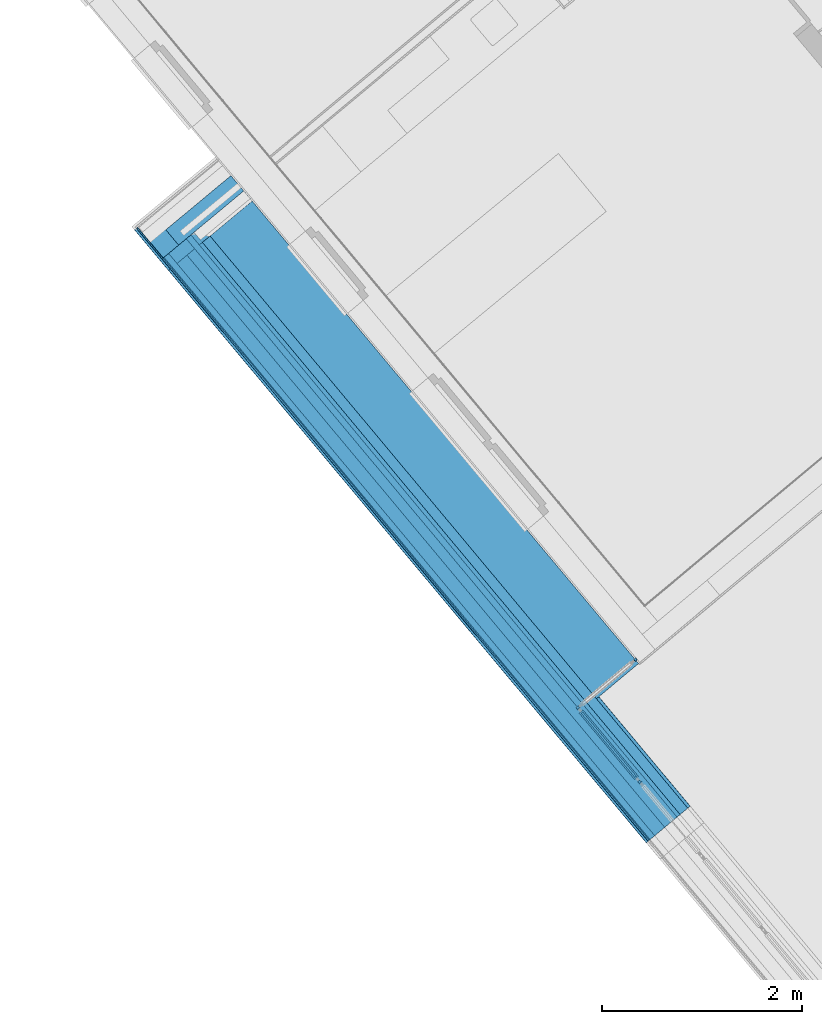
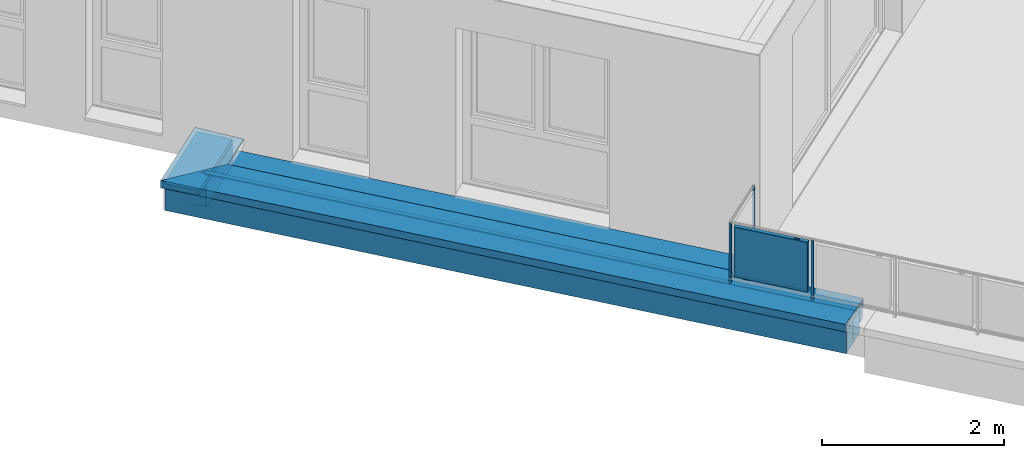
# One storey, part 15 of 61: 18 building element parts, 4 elements without a shape of their own.
"""IFC4 building model written with IfcOpenShell, lengths in metres."""

from ifc_helpers import new_model, entity, si_unit, converted_unit, derived_unit, direction, frame, origin_with_axes, place, context, subcontext, project, spatial, polygons, material, type_object, element, aggregate, save


model = new_model("IFC4")

# Units and contexts
model_context = context("Model", 3, precision=1e-05, world=origin_with_axes(), true_north=direction((0.0, 1.0)))
body_context = subcontext(model_context, "Body", "Model", "MODEL_VIEW")
ifc_project = project(units=[si_unit("LENGTHUNIT", "METRE"), si_unit("AREAUNIT", "SQUARE_METRE"), si_unit("VOLUMEUNIT", "CUBIC_METRE"), converted_unit("PLANEANGLEUNIT", "DEGREE", entity("IfcPlaneAngleMeasure", 0.0174532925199), si_unit("PLANEANGLEUNIT", "RADIAN"), dimensions=[0, 0, 0, 0, 0, 0, 0]), converted_unit("TIMEUNIT", "Year", entity("IfcTimeMeasure", 31556926.0), si_unit("TIMEUNIT", "SECOND"), dimensions=[0, 0, 1, 0, 0, 0, 0]), si_unit("MASSUNIT", "GRAM", prefix="KILO"), si_unit("THERMODYNAMICTEMPERATUREUNIT", "DEGREE_CELSIUS"), si_unit("LUMINOUSINTENSITYUNIT", "LUMEN"), si_unit("ENERGYUNIT", "JOULE", prefix="MEGA"), derived_unit("THERMALCONDUCTANCEUNIT", [(si_unit("POWERUNIT", "WATT"), 1), (si_unit("LENGTHUNIT", "METRE"), -1), (si_unit("THERMODYNAMICTEMPERATUREUNIT", "KELVIN"), -1)]), derived_unit("SPECIFICHEATCAPACITYUNIT", [(si_unit("ENERGYUNIT", "JOULE"), 1), (si_unit("MASSUNIT", "GRAM", prefix="KILO"), -1), (si_unit("THERMODYNAMICTEMPERATUREUNIT", "KELVIN"), -1)]), derived_unit("MASSDENSITYUNIT", [(si_unit("MASSUNIT", "GRAM", prefix="KILO"), 1), (si_unit("VOLUMEUNIT", "CUBIC_METRE"), -1)])], contexts=[model_context])

# Site, building, storey
site_placement = place(None, frame((-0.00153261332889, -0.00661245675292, 0.0), z_axis=(0.0, 0.0, 1.0), x_axis=(1.0, 0.0, 0.0)))
site = spatial("IfcSite", under=ifc_project, at=site_placement, Name="Gelände", CompositionType="ELEMENT")
building_placement = place(site_placement, origin_with_axes())
building = spatial("IfcBuilding", under=site, at=building_placement, Name="Gebäude", CompositionType="ELEMENT")
storey_placement = place(building_placement, frame((0.0, 0.0, 5.7), z_axis=(0.0, 0.0, 1.0), x_axis=(1.0, 0.0, 0.0)))
storey = spatial("IfcBuildingStorey", under=building, at=storey_placement, Name="DG1", CompositionType="ELEMENT", Elevation=5.7)

# Wall, building element parts
wall_type = type_object("IfcWallType", Name="Bauteil - Attika Terrasse 1.DG 574 x 410", PredefinedType="NOTDEFINED")
wall_1_placement = place(storey_placement, frame((-5.34189117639, 15.0197766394, -0.2), z_axis=(0.0, 0.0, 1.0), x_axis=(-0.768971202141, -0.639283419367, 0.0)))
wall_1 = element("IfcWall", 1, at=wall_1_placement, inside=storey, type_object=wall_type, Name="Wand-003", PredefinedType="NOTDEFINED")
ifc_material_1 = material(Name="Holzwerkstoff")
building_element_part_1_placement = place(wall_1_placement, origin_with_axes())
building_element_part_1 = element("IfcBuildingElementPart", 2, at=building_element_part_1_placement, material=ifc_material_1, Name="Holzwerkstoff", PredefinedType="NOTDEFINED", context=body_context, shape_type="Tessellation", body=[
    polygons([(1.08651749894, -0.239276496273, 0.608570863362), (1.08603229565, 0.330698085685, 0.587938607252), (0.0, 0.330698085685, 0.587938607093), (0.0, -0.239276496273, 0.608570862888), (1.08723952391, -0.239996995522, 0.587938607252), (0.0, 0.329999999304, 0.567947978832), (1.08603529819, 0.33069508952, 0.587852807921), (1.03602023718, 0.330634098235, 0.586106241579), (0.976160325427, 0.330561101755, 0.584015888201), (0.74603542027, 0.330280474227, 0.575979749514), (0.685925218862, 0.330207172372, 0.573880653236), (0.516035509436, 0.329999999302, 0.567947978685), (0.0, 0.160110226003, 0.573880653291), (0.0, 0.100000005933, 0.575979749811), (0.0, -0.130124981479, 0.584015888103), (0.0, -0.189984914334, 0.586106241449), (0.0, -0.239999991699, 0.587852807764), (1.08724252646, -0.239999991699, 0.587852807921), (1.03712153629, -0.189984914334, 0.586106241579), (0.977134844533, -0.130124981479, 0.584015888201), (0.746522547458, 0.100000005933, 0.575979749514), (0.686285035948, 0.160110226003, 0.573880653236)], [[[1, 2, 3, 4]], [[5, 2, 1]], [[6, 3, 2, 7, 8, 9, 10, 11, 12]], [[4, 3, 6, 13, 14, 15, 16, 17]], [[5, 1, 4, 17, 18]], [[2, 5, 18, 7]], [[7, 18, 19, 8]], [[20, 9, 8, 19]], [[9, 20, 21, 10]], [[21, 22, 11, 10]], [[22, 12, 11]], [[12, 22, 13, 6]], [[21, 14, 13, 22]], [[20, 15, 14, 21]], [[20, 19, 16, 15]], [[17, 16, 19, 18]]], closed=True),
])
ifc_material_2 = material(Name="Stahlbeton")
building_element_part_2_placement = place(wall_1_placement, origin_with_axes())
building_element_part_2 = element("IfcBuildingElementPart", 3, at=building_element_part_2_placement, material=ifc_material_2, Name="Stahlbeton", PredefinedType="NOTDEFINED", context=body_context, shape_type="Tessellation", body=[
    polygons([(0.846734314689, 1.82835613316e-09, 0.499999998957), (0.846311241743, 0.199999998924, 0.499999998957), (0.0, 0.199999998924, 0.500000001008), (0.0, 1.82835613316e-09, 0.500000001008), (0.846311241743, 0.199999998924, 0.498822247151), (0.846734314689, 1.82835613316e-09, 0.498822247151), (0.846311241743, 0.199999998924, 0.49100648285), (0.846311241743, 0.199999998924, 0.488695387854), (0.846311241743, 0.199999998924, 0.335), (0.0, 0.199999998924, 0.335000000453), (0.0, 1.82835613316e-09, 0.2), (0.0, 0.199999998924, 0.2), (0.846734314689, 1.82835613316e-09, 0.2), (0.846734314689, 1.82835613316e-09, 0.335), (0.846734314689, 1.82835613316e-09, 0.488695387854), (0.846734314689, 1.82835613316e-09, 0.49100648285), (0.846311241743, 0.199999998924, 0.2)], [[[1, 2, 3, 4]], [[5, 2, 1, 6]], [[2, 5, 7, 8, 9, 10, 3]], [[11, 4, 3, 10, 12]], [[6, 1, 4, 11, 13, 14, 15, 16]], [[5, 6, 16, 7]], [[7, 16, 15, 8]], [[8, 15, 14, 9]], [[9, 17, 12, 10]], [[17, 13, 11, 12]], [[9, 14, 13, 17]]], closed=True),
])
ifc_material_3 = material(Name="Brettschichtholz")
building_element_part_3_placement = place(wall_1_placement, origin_with_axes())
building_element_part_3 = element("IfcBuildingElementPart", 4, at=building_element_part_3_placement, material=ifc_material_3, Name="Brettschichtholz", PredefinedType="NOTDEFINED", context=body_context, shape_type="Tessellation", body=[
    polygons([(1.06139631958, 0.159999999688, 0.559999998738), (1.06131170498, 0.200000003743, 0.559999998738), (0.0, 0.200000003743, 0.559999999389), (0.0, 0.159999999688, 0.559999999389), (1.06131169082, 0.200000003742, 0.519224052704), (1.06152324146, 0.100000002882, 0.559999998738), (1.06201003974, -0.130124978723, 0.559999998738), (1.06213696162, -0.190124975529, 0.559999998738), (1.06218958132, -0.214999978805, 0.559999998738), (1.06218956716, -0.214999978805, 0.519224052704), (1.06131168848, 0.200000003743, 0.511361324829), (1.06131168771, 0.200000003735, 0.50905023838), (1.06131169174, 0.200000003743, 0.499999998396), (0.0, 0.200000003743, 0.500000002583), (0.0, -0.214999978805, 0.499999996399), (0.0, -0.214999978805, 0.559999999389), (0.0, -0.190124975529, 0.559999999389), (0.0, -0.130124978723, 0.559999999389), (0.0, 0.100000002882, 0.559999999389), (1.06218956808, -0.214999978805, 0.499999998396), (1.06218956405, -0.214999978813, 0.50905023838), (1.06218956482, -0.214999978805, 0.511361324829)], [[[1, 2, 3, 4]], [[5, 2, 1, 6, 7, 8, 9, 10]], [[2, 5, 11, 12, 13, 14, 3]], [[15, 16, 17, 18, 19, 4, 3, 14]], [[6, 1, 4, 19]], [[7, 6, 19, 18]], [[8, 7, 18, 17]], [[9, 8, 17, 16]], [[10, 9, 16, 15, 20, 21, 22]], [[5, 10, 22, 11]], [[11, 22, 21, 12]], [[12, 21, 20, 13]], [[14, 13, 20, 15]]], closed=True),
])
aggregate(wall_1, [building_element_part_1, building_element_part_2, building_element_part_3])

wall_2_placement = place(storey_placement, frame((-5.99300548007, 14.4784734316, -0.2), z_axis=(0.0, 0.0, 1.0), x_axis=(0.640908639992, -0.767617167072, 0.0)))
wall_2 = element("IfcWall", 5, at=wall_2_placement, inside=storey, type_object=wall_type, Name="Wand-004", PredefinedType="NOTDEFINED")
ifc_material_4 = material(Name="Stahl")
building_element_part_4_placement = place(wall_2_placement, origin_with_axes())
building_element_part_4 = element("IfcBuildingElementPart", 6, at=building_element_part_4_placement, material=ifc_material_4, Name="Stahl", PredefinedType="NOTDEFINED", context=body_context, shape_type="Tessellation", body=[
    polygons([(-0.240659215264, -0.240150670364, 0.575979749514), (-0.240662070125, -0.241500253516, 0.575979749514), (-0.240662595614, -0.241500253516, 0.584015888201), (-0.240659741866, -0.240151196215, 0.584015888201), (-0.240661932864, -0.241500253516, 0.573880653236), (-0.240659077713, -0.240150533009, 0.573880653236), (-0.238743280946, -0.241500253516, 0.511361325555), (-0.240097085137, -0.241500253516, 0.510007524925), (7.77960617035, -0.241500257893, 0.510007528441), (7.77960617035, -0.241500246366, 0.610006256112), (-0.24201164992, -0.241500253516, 0.610006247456), (-0.203241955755, -0.241500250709, 0.608602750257), (-0.240664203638, -0.241500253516, 0.608602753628), (-0.240664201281, -0.241500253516, 0.608570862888), (-0.240662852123, -0.241500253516, 0.587938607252), (-0.240662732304, -0.241500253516, 0.586106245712), (-0.240661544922, -0.241500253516, 0.567947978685), (-0.240661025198, -0.241500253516, 0.560000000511), (-0.240658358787, -0.241500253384, 0.519224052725), (-0.240657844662, -0.241500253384, 0.511361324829), (-0.240659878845, -0.240151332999, 0.586106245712), (-0.238740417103, -0.24014644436, 0.511361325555), (-0.240654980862, -0.24014644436, 0.511361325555), (-0.240655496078, -0.240146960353, 0.519224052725), (-0.240658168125, -0.240149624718, 0.560000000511), (-0.24065868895, -0.240150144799, 0.567947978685), (-0.240659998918, -0.240151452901, 0.587938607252), (-0.240661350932, -0.240152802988, 0.608570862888), (-0.240661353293, -0.240152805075, 0.608602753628), (-0.203239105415, -0.240152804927, 0.608602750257), (7.7796065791, -0.240152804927, 0.608602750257), (7.77960658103, -0.240146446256, 0.51136132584), (-0.238736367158, -0.238231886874, 0.511361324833), (-0.241051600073, -0.240542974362, 0.509050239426), (7.77960646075, -0.240542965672, 0.50905023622), (7.77960924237, -0.231373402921, 0.518219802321), (7.77960896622, -0.232283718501, 0.519224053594), (7.77960684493, -0.239276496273, 0.608570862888), (7.77978015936, 0.330698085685, 0.587937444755), (7.77978015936, 0.330698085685, 0.491006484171), (7.77978015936, 0.32288233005, 0.498822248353), (7.77978015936, 0.321878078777, 0.497911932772), (7.77978015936, 0.331094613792, 0.488695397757), (7.77978015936, 0.332051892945, 0.489652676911), (7.77978015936, 0.332051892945, 0.589243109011), (0.332755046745, 0.332051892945, 0.589243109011), (-0.202277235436, -0.201849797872, 0.608570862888), (-0.203159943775, -0.202730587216, 0.608602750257), (-0.202356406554, -0.239276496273, 0.608570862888), (-0.232775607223, -0.23228372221, 0.519224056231), (-0.231867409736, -0.233287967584, 0.518219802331), (-0.231863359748, -0.23137340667, 0.518219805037), (0.332675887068, 0.294630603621, 0.589243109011), (0.332752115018, 0.330665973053, 0.587938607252), (0.332752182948, 0.330698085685, 0.587937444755), (0.332752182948, 0.330698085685, 0.498822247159), (0.332752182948, 0.330698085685, 0.491006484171), (0.332752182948, 0.330698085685, 0.586106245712), (0.332752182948, 0.330698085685, 0.584015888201), (0.332752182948, 0.330698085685, 0.575979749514), (0.332752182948, 0.330698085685, 0.573880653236), (0.332752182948, 0.330698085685, 0.567947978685), (0.332752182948, 0.330698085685, 0.559999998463), (0.332752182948, 0.330698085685, 0.519224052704), (0.332752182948, 0.330698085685, 0.511361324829), (0.332752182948, 0.330698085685, 0.50905023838), (0.332752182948, 0.330698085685, 0.499999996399), (0.331398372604, 0.33069808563, 0.49100648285), (0.323566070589, 0.322882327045, 0.498822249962), (0.324474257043, 0.32187807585, 0.497911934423), (0.331394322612, 0.328783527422, 0.49100648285), (0.332748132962, 0.328783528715, 0.491006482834), (0.332750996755, 0.330137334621, 0.489652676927), (0.331795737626, 0.331094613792, 0.488695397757), (0.332755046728, 0.332051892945, 0.489652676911), (0.332755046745, 0.332051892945, 0.49100648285), (0.332755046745, 0.332051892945, 0.498822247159), (0.332755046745, 0.332051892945, 0.499999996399), (0.332755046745, 0.332051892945, 0.50905023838), (0.332755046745, 0.332051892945, 0.511361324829), (0.332755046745, 0.332051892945, 0.519224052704), (0.332755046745, 0.332051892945, 0.559999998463), (0.332755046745, 0.332051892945, 0.567947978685), (0.332755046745, 0.332051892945, 0.573880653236), (0.332755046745, 0.332051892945, 0.575979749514), (0.332755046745, 0.332051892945, 0.584015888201), (0.332755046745, 0.332051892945, 0.586106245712), (0.332755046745, 0.332051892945, 0.587938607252)], [[[1, 2, 3, 4]], [[5, 2, 1, 6]], [[7, 8, 9, 10, 11, 12, 13, 14, 15, 16, 3, 2, 5, 17, 18, 19, 20]], [[3, 16, 21, 4]], [[22, 23, 24, 25, 26, 6, 1, 4, 21, 27, 28, 29, 30, 31, 32]], [[17, 5, 6, 26]], [[8, 7, 22, 33, 34]], [[8, 34, 35, 9]], [[9, 35, 36, 37, 32, 31, 38, 39, 40, 41, 42, 43, 44, 45, 10]], [[46, 47, 48, 11, 10, 45]], [[30, 12, 11, 48]], [[29, 13, 12, 30]], [[14, 13, 29, 28]], [[15, 14, 28, 27]], [[16, 15, 27, 21]], [[18, 17, 26, 25]], [[19, 18, 25, 24]], [[20, 19, 24, 23]], [[7, 20, 23, 22]], [[49, 38, 31, 30]], [[22, 32, 37, 50, 51]], [[33, 22, 51, 52]], [[34, 33, 52, 36, 35]], [[50, 37, 36, 52]], [[53, 54, 55, 39, 38, 49]], [[56, 57, 40, 39, 55, 58, 59, 60, 61, 62, 63, 64, 65, 66, 67]], [[57, 68, 69, 41, 40]], [[69, 70, 42, 41]], [[70, 71, 72, 73, 74, 43, 42]], [[74, 75, 44, 43]], [[76, 77, 78, 79, 80, 81, 82, 83, 84, 85, 86, 87, 88, 46, 45, 44, 75]], [[53, 49, 47, 46]], [[49, 30, 48, 47]], [[51, 50, 52]], [[54, 53, 46, 88, 55]], [[76, 57, 56, 77]], [[58, 55, 88, 87]], [[86, 59, 58, 87]], [[60, 59, 86, 85]], [[61, 60, 85, 84]], [[62, 61, 84, 83]], [[63, 62, 83, 82]], [[64, 63, 82, 81]], [[65, 64, 81, 80]], [[66, 65, 80, 79]], [[67, 66, 79, 78]], [[56, 67, 78, 77]], [[72, 71, 68, 57]], [[70, 69, 68, 71]], [[73, 72, 57, 76, 75]], [[74, 73, 75]]], closed=True),
])
building_element_part_5_placement = place(wall_2_placement, origin_with_axes())
building_element_part_5 = element("IfcBuildingElementPart", 7, at=building_element_part_5_placement, material=ifc_material_1, Name="Holzwerkstoff", PredefinedType="NOTDEFINED", context=body_context, shape_type="Tessellation", body=[
    polygons([(0.33023295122, -0.189984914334, 0.586106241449), (0.33028658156, -0.130124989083, 0.584015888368), (7.77963995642, -0.130124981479, 0.584015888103), (7.77962179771, -0.189984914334, 0.586106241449), (0.331334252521, 0.330634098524, 0.586106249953), (0.331261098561, 0.330561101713, 0.584015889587), (0.330492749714, 0.100000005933, 0.575979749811), (7.77970976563, 0.100000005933, 0.575979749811), (7.77960662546, -0.239999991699, 0.587852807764), (7.77972800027, 0.160110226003, 0.573880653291), (7.77978015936, 0.329999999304, 0.567947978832), (7.77978015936, 0.330698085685, 0.587938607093), (7.77960684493, -0.239276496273, 0.608570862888), (0.33018813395, -0.239999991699, 0.587852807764), (0.330191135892, -0.23999699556, 0.587938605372), (0.331398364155, 0.330698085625, 0.587938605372), (0.330698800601, 0.329999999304, 0.567947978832), (0.330906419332, 0.330207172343, 0.573880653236), (0.330979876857, 0.330280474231, 0.57597974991), (0.330546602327, 0.160110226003, 0.573880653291), (-0.239783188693, -0.239276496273, 0.608570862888)], [[[1, 2, 3, 4]], [[2, 1, 5, 6]], [[2, 7, 8, 3]], [[9, 4, 3, 8, 10, 11, 12, 13]], [[14, 1, 4, 9]], [[1, 14, 15, 16, 5]], [[6, 5, 16, 12, 11, 17, 18, 19]], [[7, 2, 6, 19]], [[7, 20, 10, 8]], [[20, 17, 11, 10]], [[21, 13, 12, 16]], [[15, 14, 9, 13, 21]], [[15, 21, 16]], [[17, 20, 18]], [[20, 7, 19, 18]]], closed=True),
])
ifc_material_5 = material(Name="EPS 1")
building_element_part_6_placement = place(wall_2_placement, origin_with_axes())
building_element_part_6 = element("IfcBuildingElementPart", 8, at=building_element_part_6_placement, material=ifc_material_5, Name="EPS 1", PredefinedType="NOTDEFINED", context=body_context, shape_type="Tessellation", body=[
    polygons([(0.300423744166, 0.200000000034, 0.335000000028), (0.300423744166, 0.200000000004, 0.488695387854), (0.300635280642, 0.300000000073, 0.488695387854), (0.300635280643, 0.300000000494, 0.335000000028), (7.77974010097, 0.200000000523, 0.335000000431), (7.77974010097, 0.2, 0.560000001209), (0.300423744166, 0.199999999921, 0.560000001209), (0.300423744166, 0.199999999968, 0.519224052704), (0.300423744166, 0.199999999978, 0.511361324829), (0.300423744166, 0.19999999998, 0.50905023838), (0.300423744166, 0.199999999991, 0.499999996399), (0.300423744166, 0.199999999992, 0.498822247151), (0.300423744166, 0.200000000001, 0.49100648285), (0.300635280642, 0.300000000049, 0.49100648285), (0.300635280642, 0.299999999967, 0.498822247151), (0.300635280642, 0.299999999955, 0.499999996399), (0.300635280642, 0.29999999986, 0.50905023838), (0.300635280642, 0.299999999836, 0.511361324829), (0.300635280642, 0.299999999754, 0.519224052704), (0.300635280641, 0.299999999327, 0.560000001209), (7.77977043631, 0.30000000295, 0.560000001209), (7.77977043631, 0.300000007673, 0.48869539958), (7.77977043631, 0.300000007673, 0.335000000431)], [[[1, 2, 3, 4]], [[2, 1, 5, 6, 7, 8, 9, 10, 11, 12, 13]], [[2, 13, 14, 3]], [[3, 14, 15, 16, 17, 18, 19, 20, 21, 22, 23, 4]], [[1, 4, 23, 5]], [[6, 5, 23, 22, 21]], [[20, 7, 6, 21]], [[8, 7, 20, 19]], [[9, 8, 19, 18]], [[10, 9, 18, 17]], [[11, 10, 17, 16]], [[12, 11, 16, 15]], [[13, 12, 15, 14]]], closed=True),
])
ifc_material_6 = material(Name="Vollholz")
building_element_part_7_placement = place(wall_2_placement, origin_with_axes())
building_element_part_7 = element("IfcBuildingElementPart", 9, at=building_element_part_7_placement, material=ifc_material_6, Name="Vollholz", PredefinedType="NOTDEFINED", context=body_context, shape_type="Tessellation", body=[
    polygons([(0.160322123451, 0.1, 0.573880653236), (0.160449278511, 0.160110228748, 0.573880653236), (0.160402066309, 0.160063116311, 0.567947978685), (0.160275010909, 0.1, 0.567947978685), (0.100211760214, 0.100000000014, 0.575979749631), (7.77972800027, 0.160110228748, 0.573880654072), (7.77972796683, 0.16, 0.560000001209), (0.160338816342, 0.16, 0.560000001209), (0.160211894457, 0.1, 0.560000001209), (7.77970976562, 0.1, 0.560000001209), (7.77970976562, 0.1, 0.575979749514)], [[[1, 2, 3, 4]], [[5, 2, 1]], [[3, 2, 6, 7, 8]], [[4, 3, 8, 9]], [[5, 1, 4, 9, 10, 11]], [[2, 5, 11, 6]], [[10, 7, 6, 11]], [[9, 8, 7, 10]]], closed=True),
])
building_element_part_8_placement = place(wall_2_placement, origin_with_axes())
building_element_part_8 = element("IfcBuildingElementPart", 10, at=building_element_part_8_placement, material=ifc_material_2, Name="Stahlbeton", PredefinedType="NOTDEFINED", context=body_context, shape_type="Tessellation", body=[
    polygons([(0.20042351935, 0.199999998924, 0.498822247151), (0.20042351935, 0.199999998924, 0.500000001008), (7.77974010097, 0.199999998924, 0.500000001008), (7.77974010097, 0.200000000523, 0.335000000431), (0.20042351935, 0.199999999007, 0.335), (0.20042351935, 0.199999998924, 0.488695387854), (0.20042351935, 0.199999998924, 0.49100648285), (0.200000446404, 1.82835613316e-09, 0.500000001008), (0.200000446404, 1.82835613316e-09, 0.498822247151), (7.77967943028, 1.82835080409e-09, 0.500000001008), (7.77974010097, 0.200000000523, 0.2), (7.77967943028, 1.82835258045e-09, 0.2), (0.20042351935, 0.199999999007, 0.2), (0.200000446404, 1.82835613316e-09, 0.488695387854), (0.200000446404, 1.82835613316e-09, 0.335), (0.200000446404, 1.82835613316e-09, 0.49100648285), (0.200000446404, 1.82835613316e-09, 0.2)], [[[1, 2, 3, 4, 5, 6, 7]], [[8, 2, 1, 9]], [[2, 8, 10, 3]], [[11, 4, 3, 10, 12]], [[13, 5, 4, 11]], [[14, 6, 5, 15]], [[16, 7, 6, 14]], [[9, 1, 7, 16]], [[8, 9, 16, 14, 15, 17, 12, 10]], [[17, 13, 11, 12]], [[15, 5, 13, 17]]], closed=True),
])
building_element_part_9_placement = place(wall_2_placement, origin_with_axes())
building_element_part_9 = element("IfcBuildingElementPart", 11, at=building_element_part_9_placement, material=ifc_material_5, Name="EPS 1", PredefinedType="NOTDEFINED", context=body_context, shape_type="Tessellation", body=[
    polygons([(-2.40415687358e-10, -2.39910313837e-10, 0.498822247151), (-2.40415687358e-10, -2.39910313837e-10, 0.499999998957), (7.77967943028, -2.39913866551e-10, 0.499999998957), (7.77967943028, -2.39912978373e-10, 0.2), (-2.40417463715e-10, -2.39910313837e-10, 0.2), (-2.40415687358e-10, -2.39910313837e-10, 0.335), (-2.40415687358e-10, -2.39910313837e-10, 0.488695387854), (-2.40415687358e-10, -2.39910313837e-10, 0.49100648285), (-0.000423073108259, -0.19999996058, 0.499999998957), (-0.000423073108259, -0.19999996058, 0.498822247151), (7.77961875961, -0.19999996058, 0.499999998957), (7.77961875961, -0.19999996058, 0.2), (-0.000423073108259, -0.19999996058, 0.2), (-0.000423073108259, -0.19999996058, 0.335), (-0.000423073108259, -0.19999996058, 0.488695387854), (-0.000423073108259, -0.19999996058, 0.49100648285)], [[[1, 2, 3, 4, 5, 6, 7, 8]], [[9, 2, 1, 10]], [[2, 9, 11, 3]], [[12, 4, 3, 11]], [[13, 5, 4, 12]], [[14, 6, 5, 13]], [[15, 7, 6, 14]], [[16, 8, 7, 15]], [[10, 1, 8, 16]], [[9, 10, 16, 15, 14, 13, 12, 11]]], closed=True),
])
building_element_part_10_placement = place(wall_2_placement, origin_with_axes())
building_element_part_10 = element("IfcBuildingElementPart", 12, at=building_element_part_10_placement, material=ifc_material_6, Name="Vollholz", PredefinedType="NOTDEFINED", context=body_context, shape_type="Tessellation", body=[
    polygons([(-0.130527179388, -0.189996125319, 0.584015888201), (-0.130400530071, -0.130124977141, 0.584015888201), (-0.130400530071, -0.130124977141, 0.575979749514), (-0.130527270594, -0.190039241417, 0.575979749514), (-0.190387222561, -0.189984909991, 0.586106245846), (7.77963995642, -0.130124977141, 0.584015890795), (7.77963995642, -0.130124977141, 0.560000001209), (-0.130400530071, -0.130124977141, 0.560000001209), (-0.130400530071, -0.130124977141, 0.567947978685), (-0.130400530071, -0.130124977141, 0.573880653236), (-0.130527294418, -0.190050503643, 0.573880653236), (-0.130527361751, -0.190082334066, 0.567947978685), (-0.130527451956, -0.190124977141, 0.560000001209), (7.77962175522, -0.190124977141, 0.560000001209), (7.77962179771, -0.189984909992, 0.586106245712)], [[[1, 2, 3, 4]], [[5, 2, 1]], [[3, 2, 6, 7, 8, 9, 10]], [[4, 3, 10, 11]], [[5, 1, 4, 11, 12, 13, 14, 15]], [[2, 5, 15, 6]], [[14, 7, 6, 15]], [[13, 8, 7, 14]], [[12, 9, 8, 13]], [[11, 10, 9, 12]]], closed=True),
])
ifc_material_7 = material(Name="Zementputz")
building_element_part_11_placement = place(wall_2_placement, origin_with_axes())
building_element_part_11 = element("IfcBuildingElementPart", 13, at=building_element_part_11_placement, material=ifc_material_7, Name="Zementputz", PredefinedType="NOTDEFINED", context=body_context, shape_type="Tessellation", body=[
    polygons([(-0.20042348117, -0.199999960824, 0.498822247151), (-0.20042348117, -0.199999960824, 0.499999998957), (7.77961875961, -0.199999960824, 0.499999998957), (7.77961875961, -0.199999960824, 0.2), (-0.20042348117, -0.199999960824, 0.2), (-0.20042348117, -0.199999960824, 0.335), (-0.20042348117, -0.199999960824, 0.488695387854), (-0.20042348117, -0.199999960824, 0.49100648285), (-0.200455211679, -0.214999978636, 0.499999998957), (-0.200455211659, -0.21499996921, 0.498822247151), (7.7796142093, -0.21499996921, 0.499999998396), (7.7796142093, -0.21499996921, 0.2), (-0.200455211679, -0.214999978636, 0.2), (-0.200455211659, -0.21499996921, 0.335), (-0.200455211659, -0.21499996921, 0.488695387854), (-0.200455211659, -0.21499996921, 0.49100648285)], [[[1, 2, 3, 4, 5, 6, 7, 8]], [[9, 2, 1, 10]], [[2, 9, 11, 3]], [[12, 4, 3, 11]], [[13, 5, 4, 12]], [[14, 6, 5, 13]], [[15, 7, 6, 14]], [[16, 8, 7, 15]], [[10, 1, 8, 16]], [[9, 10, 16, 15, 14, 13, 12, 11]]], closed=True),
])
building_element_part_12_placement = place(wall_2_placement, origin_with_axes())
building_element_part_12 = element("IfcBuildingElementPart", 14, at=building_element_part_12_placement, material=ifc_material_3, Name="Brettschichtholz", PredefinedType="NOTDEFINED", context=body_context, shape_type="Tessellation", body=[
    polygons([(0.199598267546, -0.190124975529, 0.559999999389), (0.199545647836, -0.214999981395, 0.559999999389), (7.7796142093, -0.214999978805, 0.559999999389), (7.77962175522, -0.190124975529, 0.559999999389), (0.199545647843, -0.214999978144, 0.519224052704), (0.199725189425, -0.130124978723, 0.559999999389), (0.200211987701, 0.100000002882, 0.559999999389), (0.20033890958, 0.159999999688, 0.559999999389), (0.200423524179, 0.200000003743, 0.559999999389), (0.200423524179, 0.200000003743, 0.519224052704), (0.199545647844, -0.214999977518, 0.511361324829), (0.199545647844, -0.214999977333, 0.50905023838), (0.199545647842, -0.214999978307, 0.499999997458), (7.7796142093, -0.21499996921, 0.499999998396), (7.7796142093, -0.21499996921, 0.50905023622), (7.77974010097, 0.200000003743, 0.500000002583), (7.77974010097, 0.200000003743, 0.559999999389), (7.77972796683, 0.159999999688, 0.559999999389), (7.77970976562, 0.100000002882, 0.559999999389), (7.77963995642, -0.130124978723, 0.559999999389), (0.200423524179, 0.200000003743, 0.500000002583), (0.200423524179, 0.200000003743, 0.50905023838), (0.200423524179, 0.200000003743, 0.511361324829)], [[[1, 2, 3, 4]], [[5, 2, 1, 6, 7, 8, 9, 10]], [[11, 12, 13, 14, 15, 3, 2, 5]], [[15, 14, 16, 17, 18, 19, 20, 4, 3]], [[6, 1, 4, 20]], [[7, 6, 20, 19]], [[8, 7, 19, 18]], [[9, 8, 18, 17]], [[21, 22, 23, 10, 9, 17, 16]], [[11, 5, 10, 23]], [[12, 11, 23, 22]], [[21, 13, 12, 22]], [[13, 21, 16, 14]]], closed=True),
])
aggregate(wall_2, [building_element_part_4, building_element_part_5, building_element_part_6, building_element_part_7, building_element_part_8, building_element_part_9, building_element_part_10, building_element_part_11, building_element_part_12])

# Covering, building element part
covering_type = type_object("IfcCoveringType", Name="Balkon vor Terrasse Kies 220", PredefinedType="NOTDEFINED")
covering_placement = place(storey_placement, frame((-1.76593456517, 9.72776171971, 0.0), z_axis=(0.0, 0.0, 1.0), x_axis=(1.0, 0.0, 0.0)))
covering = element("IfcCovering", 15, at=covering_placement, inside=storey, type_object=covering_type, Name="Decke-005", PredefinedType="NOTDEFINED")
ifc_material_8 = material(Name="Kies")
building_element_part_13_placement = place(covering_placement, origin_with_axes())
building_element_part_13 = element("IfcBuildingElementPart", 16, at=building_element_part_13_placement, material=ifc_material_8, Name="Kies", PredefinedType="NOTDEFINED", context=body_context, shape_type="Tessellation", body=[
    polygons([(0.498355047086, 0.416092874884, 0.15), (0.498355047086, 0.416092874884, 0.22), (0.0, 0.0, 0.22), (0.0, 0.0, 0.15), (-0.617608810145, 1.75161976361, 0.22), (-0.617608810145, 1.75161976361, 0.15), (-0.606098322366, 1.76123790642, 0.22), (-1.7602754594, 3.14249643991, 0.22), (-1.77178594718, 3.1328782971, 0.22), (-2.41941680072, 3.90792886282, 0.22), (-2.40790631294, 3.91754700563, 0.22), (-2.98499488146, 4.60817627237, 0.22), (-2.99650536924, 4.59855812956, 0.22), (-3.44771470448, 5.13854174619, 0.22), (-3.94509461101, 4.72504524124, 0.22), (-3.94509461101, 4.72504524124, 0.15), (-3.44771470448, 5.13854174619, 0.15), (-2.99650536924, 4.59855812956, 0.15), (-2.98499488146, 4.60817627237, 0.15), (-2.40790631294, 3.91754700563, 0.15), (-2.41941680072, 3.90792886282, 0.15), (-1.77178594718, 3.1328782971, 0.15), (-1.7602754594, 3.14249643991, 0.15), (-0.606098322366, 1.76123790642, 0.15)], [[[1, 2, 3, 4]], [[5, 2, 1, 6]], [[5, 7, 8, 9, 10, 11, 12, 13, 14, 15, 3, 2]], [[16, 4, 3, 15]], [[6, 1, 4, 16, 17, 18, 19, 20, 21, 22, 23, 24]], [[24, 7, 5, 6]], [[7, 24, 23, 8]], [[9, 8, 23, 22]], [[10, 9, 22, 21]], [[20, 11, 10, 21]], [[11, 20, 19, 12]], [[13, 12, 19, 18]], [[14, 13, 18, 17]], [[14, 17, 16, 15]]], closed=True),
])
aggregate(covering, [building_element_part_13])

# Space
space_placement = place(storey_placement, frame((-1.65459986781, 9.80045444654, 0.22), z_axis=(0.0, 0.0, 1.0), x_axis=(0.640908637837, -0.767617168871, 0.0)))
space = spatial("IfcSpace", under=storey, at=space_placement, CompositionType="ELEMENT", PredefinedType="NOTDEFINED")

# Railing, building element parts
railing_type = type_object("IfcRailingType", Name="Geländerart", PredefinedType="NOTDEFINED")
railing_placement = place(space_placement, frame((-0.0155551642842, 0.517171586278, 0.16), z_axis=(0.0, 0.0, 1.0), x_axis=(0.640908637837, 0.767617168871, 0.0)))
railing = element("IfcRailing", 17, at=railing_placement, inside=space, type_object=railing_type, Name="Geländer - 001", PredefinedType="NOTDEFINED")
ifc_material_9 = material(Name="Aluminium")
building_element_part_14_placement = place(railing_placement, origin_with_axes())
building_element_part_14 = element("IfcBuildingElementPart", 18, at=building_element_part_14_placement, material=ifc_material_9, Name="Aluminium", PredefinedType="NOTDEFINED", context=body_context, shape_type="Tessellation", body=[
    polygons([(-0.049652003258, 0.0399647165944, -0.3), (-0.0336292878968, 0.0207742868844, -0.3), (-0.0336292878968, 0.0207742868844, 0.82), (-0.049652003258, 0.0399647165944, 0.82), (-0.030461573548, 0.0559874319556, -0.3), (-0.0144388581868, 0.0367970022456, -0.3), (-0.0144388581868, 0.0367970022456, 0.82), (-0.030461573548, 0.0559874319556, 0.82)], [[[1, 2, 3, 4]], [[1, 5, 6, 2]], [[2, 6, 7, 3]], [[4, 3, 7, 8]], [[5, 1, 4, 8]], [[6, 5, 8, 7]]], closed=True),
])
building_element_part_15_placement = place(railing_placement, origin_with_axes())
building_element_part_15 = element("IfcBuildingElementPart", 19, at=building_element_part_15_placement, material=ifc_material_9, Name="Aluminium", PredefinedType="NOTDEFINED", context=body_context, shape_type="Tessellation", body=[
    polygons([(-0.624768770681, -0.440219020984, -0.3), (-0.60874605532, -0.459409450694, -0.3), (-0.60874605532, -0.459409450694, 0.82), (-0.624768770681, -0.440219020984, 0.82), (-0.605578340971, -0.424196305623, -0.3), (-0.58955562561, -0.443386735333, -0.3), (-0.58955562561, -0.443386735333, 0.82), (-0.605578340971, -0.424196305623, 0.82)], [[[1, 2, 3, 4]], [[1, 5, 6, 2]], [[2, 6, 7, 3]], [[4, 3, 7, 8]], [[5, 1, 4, 8]], [[6, 5, 8, 7]]], closed=True),
])
ifc_material_10 = material(Name="Profilit")
building_element_part_16_placement = place(railing_placement, origin_with_axes())
building_element_part_16 = element("IfcBuildingElementPart", 20, at=building_element_part_16_placement, material=ifc_material_10, Name="Profilit", PredefinedType="NOTDEFINED", context=body_context, shape_type="Tessellation", body=[
    polygons([(-0.0230407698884, -1.12580306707, 0.135), (-0.557826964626, -0.485288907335, 0.135), (-0.557826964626, -0.485288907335, 0.775), (-0.0230407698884, -1.12580306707, 0.775), (-0.573179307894, -0.498107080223, 0.135), (-0.0383931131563, -1.13862123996, 0.135), (-0.573179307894, -0.498107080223, 0.775), (-0.0383931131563, -1.13862123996, 0.775)], [[[1, 2, 3, 4]], [[5, 2, 1, 6]], [[7, 3, 2, 5]], [[4, 3, 7, 8]], [[1, 4, 8, 6]], [[7, 5, 6, 8]]], closed=True),
])
building_element_part_17_placement = place(railing_placement, origin_with_axes())
building_element_part_17 = element("IfcBuildingElementPart", 21, at=building_element_part_17_placement, material=ifc_material_9, Name="Aluminium", PredefinedType="NOTDEFINED", context=body_context, shape_type="Tessellation", body=[
    polygons([(-0.509106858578, -0.555343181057, 0.12), (-0.464243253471, -0.609076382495, 0.12), (-0.464243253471, -0.609076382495, 0.095), (-0.509106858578, -0.555343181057, 0.095), (-0.512944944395, -0.558547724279, 0.12), (-0.468081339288, -0.612280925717, 0.12), (-0.468081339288, -0.612280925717, 0.095), (-0.512944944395, -0.558547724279, 0.095)], [[[1, 2, 3, 4]], [[5, 6, 2, 1]], [[2, 6, 7, 3]], [[4, 3, 7, 8]], [[1, 4, 8, 5]], [[8, 7, 6, 5]]], closed=True),
    polygons([(-0.0832751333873, -1.06536242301, 0.79), (-0.128138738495, -1.01162922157, 0.79), (-0.128138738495, -1.01162922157, 0.795), (-0.0832751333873, -1.06536242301, 0.795), (-0.0871132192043, -1.06856696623, 0.79), (-0.131976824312, -1.0148337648, 0.79), (-0.131976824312, -1.0148337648, 0.795), (-0.0871132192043, -1.06856696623, 0.795)], [[[1, 2, 3, 4]], [[5, 6, 2, 1]], [[2, 6, 7, 3]], [[4, 3, 7, 8]], [[1, 4, 8, 5]], [[8, 7, 6, 5]]], closed=True),
    polygons([(-0.594307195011, -0.496206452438, 0.12), (-0.555926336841, -0.464161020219, 0.12), (-0.00191288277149, -1.12770369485, 0.12), (-0.0402937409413, -1.15974912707, 0.12), (-0.581489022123, -0.511558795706, 0.14), (-0.569974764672, -0.50194516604, 0.14), (-0.573179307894, -0.498107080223, 0.135), (-0.557826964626, -0.485288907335, 0.135), (-0.554622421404, -0.489126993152, 0.14), (-0.543108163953, -0.479513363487, 0.14), (-0.0147310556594, -1.11235135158, 0.14), (-0.0147310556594, -1.11235135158, 0.77), (-0.543108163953, -0.479513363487, 0.77), (-0.543108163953, -0.479513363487, 0.14), (-0.555926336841, -0.464161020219, 0.12), (-0.555926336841, -0.464161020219, 0.79), (-0.00191288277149, -1.12770369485, 0.79), (-0.0402937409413, -1.15974912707, 0.79), (-0.594307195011, -0.496206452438, 0.79), (-0.594307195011, -0.496206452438, 0.12), (-0.581489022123, -0.511558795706, 0.14), (-0.581489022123, -0.511558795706, 0.77), (-0.0531119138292, -1.1443967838, 0.77), (-0.0531119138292, -1.1443967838, 0.14), (-0.0415976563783, -1.13478315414, 0.14), (-0.0415976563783, -1.13478315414, 0.77), (-0.569974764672, -0.50194516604, 0.77), (-0.569974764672, -0.50194516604, 0.14), (-0.573179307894, -0.498107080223, 0.135), (-0.573179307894, -0.498107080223, 0.775), (-0.0383931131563, -1.13862123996, 0.775), (-0.0383931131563, -1.13862123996, 0.135), (-0.0230407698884, -1.12580306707, 0.135), (-0.0230407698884, -1.12580306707, 0.775), (-0.557826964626, -0.485288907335, 0.775), (-0.557826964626, -0.485288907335, 0.135), (-0.554622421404, -0.489126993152, 0.14), (-0.554622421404, -0.489126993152, 0.77), (-0.0262453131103, -1.12196498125, 0.77), (-0.0262453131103, -1.12196498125, 0.14)], [[[1, 2, 3, 4]], [[1, 5, 6, 7, 8, 9, 10, 2]], [[2, 10, 11, 12, 13, 14, 15, 16, 17, 3]], [[4, 3, 17, 18]], [[5, 1, 4, 18, 19, 20, 21, 22, 23, 24]], [[6, 5, 24, 25]], [[7, 6, 25, 26, 27, 28, 29, 30, 31, 32]], [[8, 7, 32, 33]], [[9, 8, 33, 34, 35, 36, 37, 38, 39, 40]], [[10, 9, 40, 11]], [[11, 40, 39, 12]], [[12, 39, 38, 13]], [[13, 38, 37, 14]], [[20, 15, 14, 37, 36, 29, 28, 21]], [[19, 16, 15, 20]], [[18, 17, 16, 19]], [[27, 22, 21, 28]], [[26, 23, 22, 27]], [[25, 24, 23, 26]], [[35, 30, 29, 36]], [[34, 31, 30, 35]], [[33, 32, 31, 34]]], closed=True),
])
building_element_part_18_placement = place(railing_placement, origin_with_axes())
building_element_part_18 = element("IfcBuildingElementPart", 22, at=building_element_part_18_placement, material=ifc_material_9, Name="Aluminium", PredefinedType="NOTDEFINED", context=body_context, shape_type="Tessellation", body=[
    polygons([(0.00935826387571, -1.19971384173, -0.3), (0.0285486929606, -1.18369112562, -0.3), (0.0285486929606, -1.18369112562, 0.82), (0.00935826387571, -1.19971384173, 0.82), (-0.00666445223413, -1.18052341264, -0.3), (0.0125259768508, -1.16450069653, -0.3), (0.0125259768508, -1.16450069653, 0.82), (-0.00666445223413, -1.18052341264, 0.82)], [[[1, 2, 3, 4]], [[1, 5, 6, 2]], [[2, 6, 7, 3]], [[4, 3, 7, 8]], [[5, 1, 4, 8]], [[6, 5, 8, 7]]], closed=True),
])
aggregate(railing, [building_element_part_14, building_element_part_15, building_element_part_16, building_element_part_17, building_element_part_18])

save(model, "model.ifc")
